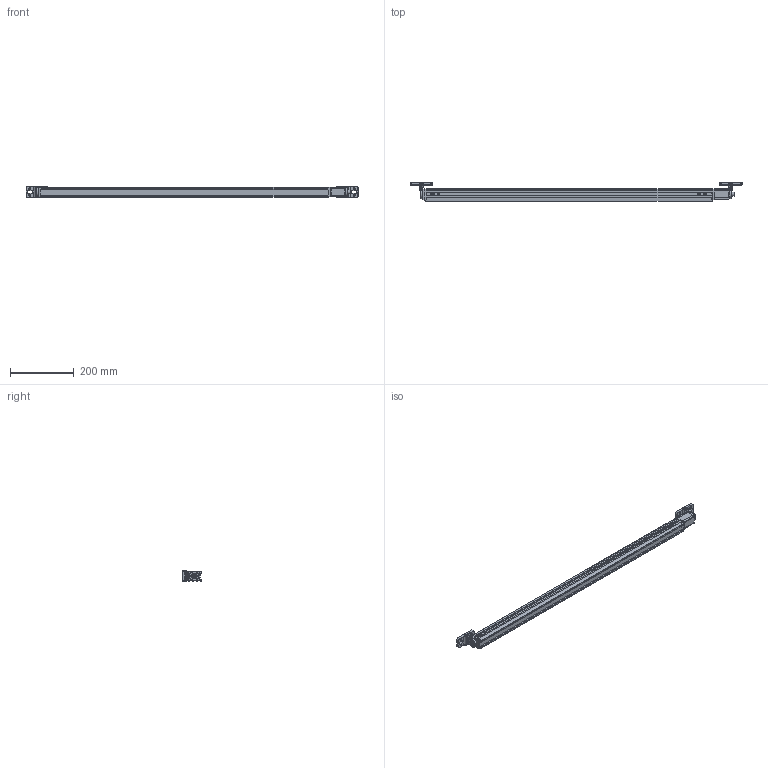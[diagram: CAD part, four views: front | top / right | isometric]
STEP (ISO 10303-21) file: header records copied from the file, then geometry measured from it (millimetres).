
FILE_DESCRIPTION((''),'2;1');
FILE_NAME('M:\INVENTORjob\Konstruktion\LV6036\Freigabe\Bauraummodelle\Geräte\stp\MLC_R_900 EX-V2.stp','2016-02-05T10:37:35',('phaberl'),(''),'Autodesk Inventor 2009','Autodesk Inventor 2009','');
FILE_SCHEMA(('AUTOMOTIVE_DESIGN { 1 0 10303 214 1 1 1 1 }'));
Length unit declared in the file: millimetre
Products named in the file (15): MLC_R_900 EX-V2; Anschlusskappe_R; Profil MLC 900 EX-V2; Endkappe_R; BT-R_Zubehör; Wandteil_Zubehör; Klemmring_BT-R_Zubehör; DIN 912 - ersetzt durch DIN EN ISO 4762 M5 x 12; DIN 934 - ersetzt durch DIN EN 24032/28673/28674 M5; DIN 6912 M5 x 30; Zylinder_Zubehör; DIN 7991 - ersetzt durch DIN EN ISO 10642 M6  x  10; Nutenstein M6; EX-Ring Endkappe-R-V2; EX-Ring Anschlusskappe-R-V2
Assembly tree (18 placements, depth 3):
  MLC_R_900 EX-V2
    Anschlusskappe_R
    Profil MLC 900 EX-V2
    Endkappe_R
    BT-R_Zubehör  x2
      Wandteil_Zubehör
      Klemmring_BT-R_Zubehör
      DIN 912 - ersetzt durch DIN EN ISO 4762 M5 x 12
      DIN 934 - ersetzt durch DIN EN 24032/28673/28674 M5
      DIN 6912 M5 x 30
    Zylinder_Zubehör
    DIN 7991 - ersetzt durch DIN EN ISO 10642 M6  x  10
    Nutenstein M6  x2
    EX-Ring Endkappe-R-V2
    EX-Ring Anschlusskappe-R-V2
Bounding box: 1039.15 x 59.5 x 34 mm (x, y, z)
Volume: 996475 mm3; surface area: 214508.6 mm2
Topology: 23 solids, 23 shells, 927 faces, 2463 edges, 1569 vertices
Faces by surface type: plane 400, cylinder 295, bspline 121, torus 47, cone 46, sphere 18
Full cylindrical faces by diameter (mm): 2.5 x2, 4.65 x2, 5 x12, 5.18 x2, 5.55 x2, 6 x1, 6.2 x9, 8.5 x4, 8.6 x2, 11.34 x1, 12 x2, 18 x1, 22.5 x1
Entity records: 17363 total; most frequent: CARTESIAN_POINT 5066, ORIENTED_EDGE 2498, DIRECTION 2409, EDGE_CURVE 1249, AXIS2_PLACEMENT_3D 858, VERTEX_POINT 833, VECTOR 693, LINE 693
